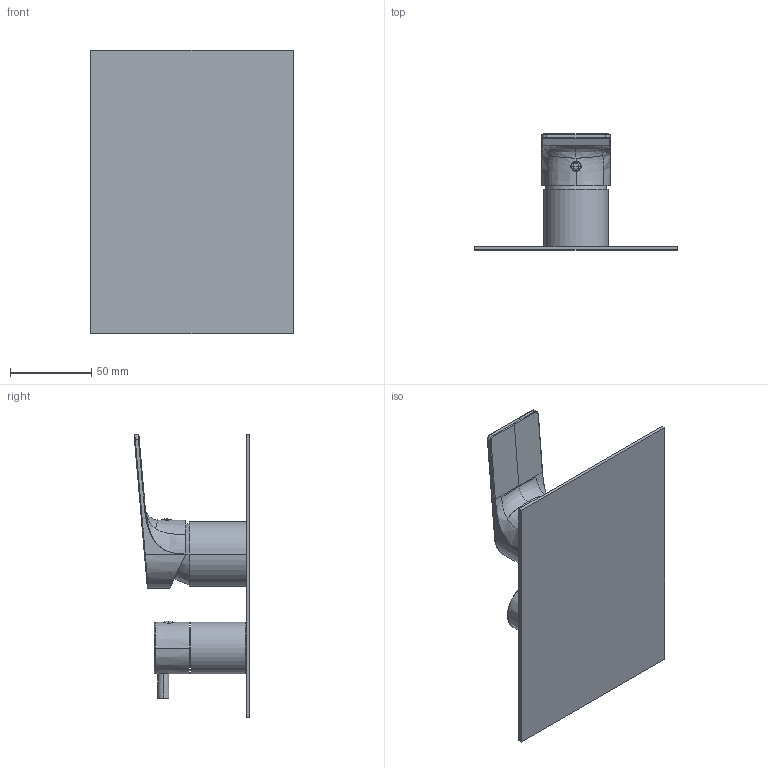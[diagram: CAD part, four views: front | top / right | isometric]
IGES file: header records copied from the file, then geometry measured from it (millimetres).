
Start section:  PTC IGES file: 78541_sw0001.igs
Global section: file name: 78541_sw0001.igs; native system: Creo Parametric by PTC Inc.; preprocessor: 2018100; author: volponeff; organization: Unknown; date: 20200527.163607; units: millimetre
Bounding box: 125 x 71.47 x 175 mm (x, y, z)
Surface area: 76515.6 mm2 (no closed solid volume)
Topology: 0 solids, 0 shells, 219 faces, 1070 edges, 1064 vertices
Faces by surface type: bspline 112, revolution 105, extrusion 2
